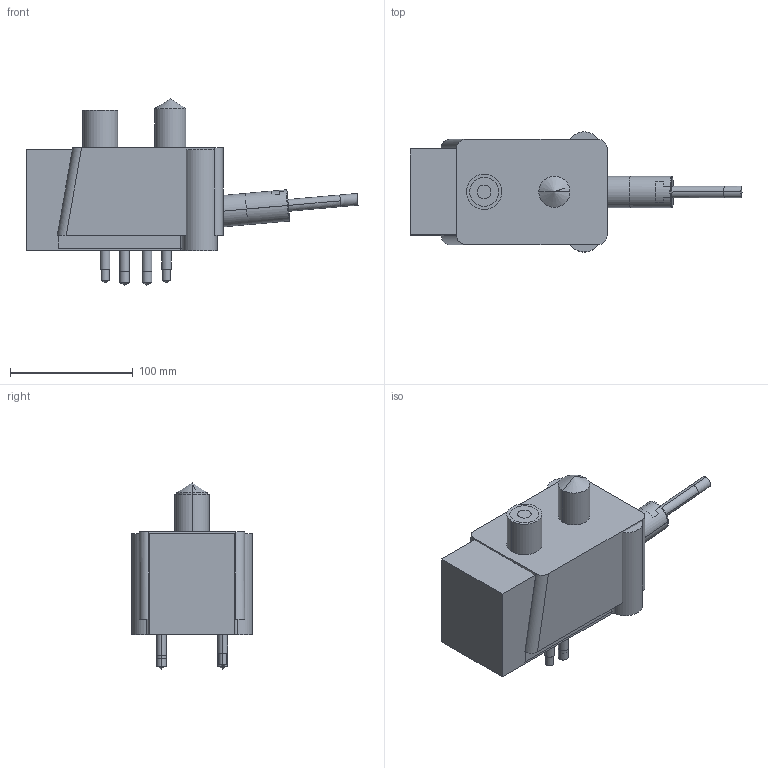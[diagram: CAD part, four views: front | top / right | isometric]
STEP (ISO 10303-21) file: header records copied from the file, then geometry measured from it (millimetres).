
FILE_DESCRIPTION((' '),'2;1');
FILE_NAME( 'EZ-05-P.stp', '2023-11-29T14:29:13', (' '), ('--- Datakit www.datakit.com---'), ' Datakit CrossCadWare V2020.4 Oct 21 2020', 'Export from SolidLink (Hexagon Production Software)', ' ');
FILE_SCHEMA(('AP242_MANAGED_MODEL_BASED_3D_ENGINEERING_MIM_LF { 1 0 10303 442 1 1 4 }'));
Length unit declared in the file: millimetre
Products named in the file (123): Workplanes; 1700579090; 1700578416; 1700501995; 1700502101; 1679421101; 1679421102; 1679421103; 1679421104; 1679421105; 1679421112; 1592308491; 1583159039; 1679421132; 1679421133; 1679421134; 1700836279; 1700836381; 1701286239; 1701286240; 1701286241; 1701286242; 1701286243; 1701286244; 1701286245; 1701286246; 1701286247; 1701286248; 1701286249; 1701286250; 1701286251; 1701286252; 1701286253; 1701286254; 1701286255; 1701286256; 1701286257; 1701286258; 1701286259; 1701286260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
Bounding box: 270.29 x 97.7 x 151.64 mm (x, y, z)
Volume: 2529994.5 mm3; surface area: 228599.9 mm2
Topology: 16 solids, 17 shells, 369 faces, 1056 edges, 935 vertices
Faces by surface type: plane 142, cylinder 125, cone 86, torus 6, sphere 4, revolution 4, bspline 2
Entity records: 16619 total; most frequent: CARTESIAN_POINT 5329, DIRECTION 2308, ORIENTED_EDGE 1660, AXIS2_PLACEMENT_3D 915, EDGE_CURVE 836, VERTEX_POINT 531, VECTOR 474, LINE 474
